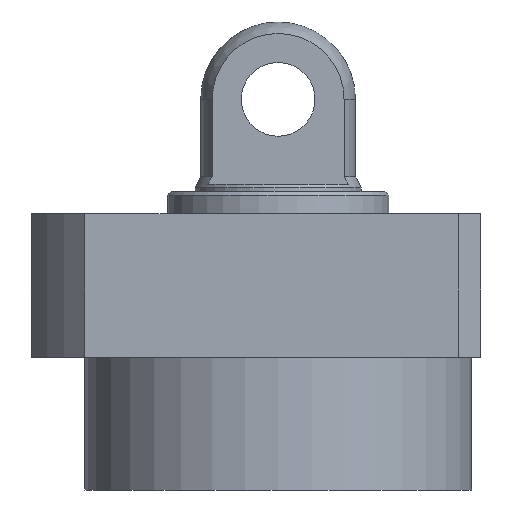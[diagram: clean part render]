
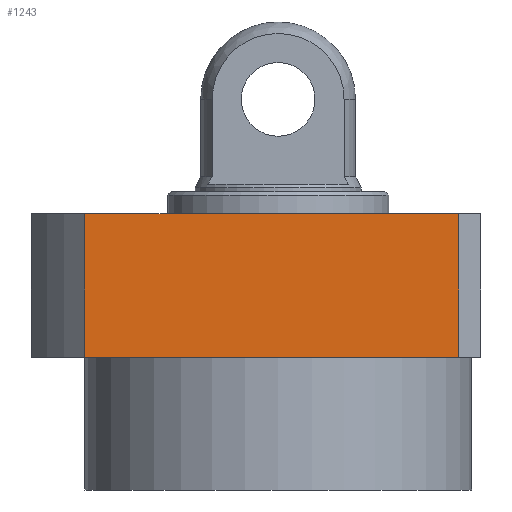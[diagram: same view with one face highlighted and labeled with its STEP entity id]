
A CAD part, front view. The second image highlights one B-rep face of the part: STEP entity #1243.
In plain terms, the highlighted planar face has unit normal (0, -1, 0).
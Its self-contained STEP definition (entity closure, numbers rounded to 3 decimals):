
#71 = CARTESIAN_POINT ( 'NONE',  ( 49., -55., 19.5 ) ) ;
#94 = DIRECTION ( 'NONE',  ( -1., 0., 0. ) ) ;
#186 = VERTEX_POINT ( 'NONE', #1154 ) ;
#240 = CARTESIAN_POINT ( 'NONE',  ( 55., -55., 19.5 ) ) ;
#248 = VERTEX_POINT ( 'NONE', #897 ) ;
#292 = ORIENTED_EDGE ( 'NONE', *, *, #1502, .T. ) ;
#304 = ORIENTED_EDGE ( 'NONE', *, *, #1286, .F. ) ;
#328 = LINE ( 'NONE', #1708, #1199 ) ;
#466 = FACE_OUTER_BOUND ( 'NONE', #1728, .T. ) ;
#481 = EDGE_CURVE ( 'NONE', #248, #186, #1175, .T. ) ;
#511 = VECTOR ( 'NONE', #1768, 1000. ) ;
#532 = DIRECTION ( 'NONE',  ( 0., 1., 0. ) ) ;
#667 = CARTESIAN_POINT ( 'NONE',  ( 55., -55., 19.5 ) ) ;
#687 = DIRECTION ( 'NONE',  ( 1., 0., 0. ) ) ;
#856 = EDGE_CURVE ( 'NONE', #186, #1255, #1178, .T. ) ;
#879 = PLANE ( 'NONE',  #1145 ) ;
#897 = CARTESIAN_POINT ( 'NONE',  ( -52.45, -55., 19.5 ) ) ;
#931 = CARTESIAN_POINT ( 'NONE',  ( -52.45, -55., 19.5 ) ) ;
#948 = VECTOR ( 'NONE', #1046, 1000. ) ;
#1046 = DIRECTION ( 'NONE',  ( 1., 0., 0. ) ) ;
#1145 = AXIS2_PLACEMENT_3D ( 'NONE', #667, #532, #94 ) ;
#1154 = CARTESIAN_POINT ( 'NONE',  ( -52.45, -55., -19.5 ) ) ;
#1175 = LINE ( 'NONE', #931, #511 ) ;
#1177 = LINE ( 'NONE', #240, #948 ) ;
#1178 = LINE ( 'NONE', #1495, #1513 ) ;
#1179 = CARTESIAN_POINT ( 'NONE',  ( 49., -55., -19.5 ) ) ;
#1199 = VECTOR ( 'NONE', #1291, 1000. ) ;
#1243 = ADVANCED_FACE ( 'NONE', ( #466 ), #879, .F. ) ;
#1255 = VERTEX_POINT ( 'NONE', #1179 ) ;
#1286 = EDGE_CURVE ( 'NONE', #248, #1454, #1177, .T. ) ;
#1291 = DIRECTION ( 'NONE',  ( 0., 0., 1. ) ) ;
#1296 = ORIENTED_EDGE ( 'NONE', *, *, #481, .T. ) ;
#1454 = VERTEX_POINT ( 'NONE', #71 ) ;
#1478 = ORIENTED_EDGE ( 'NONE', *, *, #856, .T. ) ;
#1495 = CARTESIAN_POINT ( 'NONE',  ( 55., -55., -19.5 ) ) ;
#1502 = EDGE_CURVE ( 'NONE', #1255, #1454, #328, .T. ) ;
#1513 = VECTOR ( 'NONE', #687, 1000. ) ;
#1708 = CARTESIAN_POINT ( 'NONE',  ( 49., -55., 19.5 ) ) ;
#1728 = EDGE_LOOP ( 'NONE', ( #1478, #292, #304, #1296 ) ) ;
#1768 = DIRECTION ( 'NONE',  ( 0., 0., -1. ) ) ;
